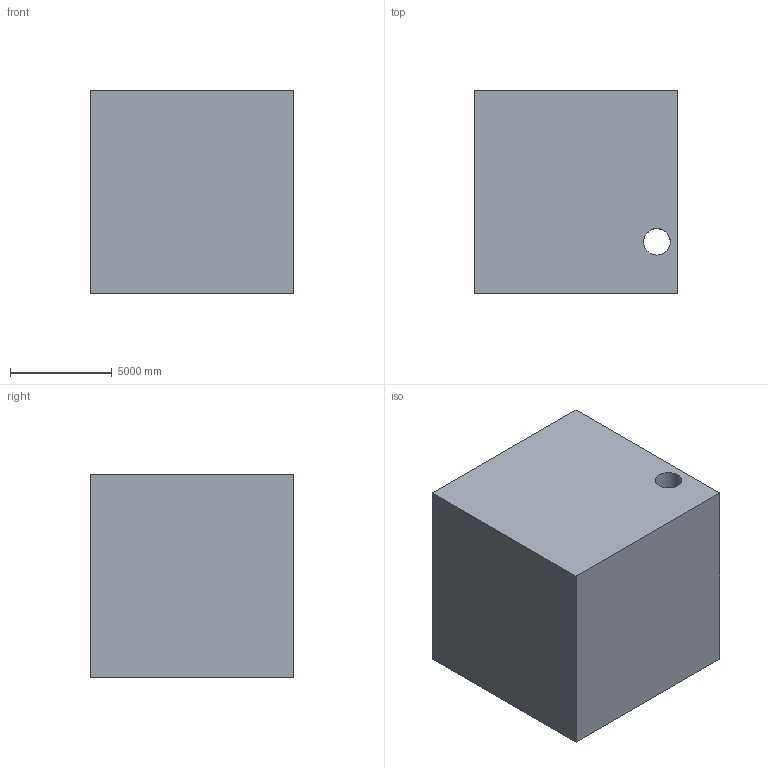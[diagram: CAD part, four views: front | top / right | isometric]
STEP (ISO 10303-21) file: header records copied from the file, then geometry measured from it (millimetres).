
FILE_DESCRIPTION (( 'STEP AP203' ), '1' );
FILE_NAME ('17.STEP', '2022-09-01T11:37:07', ( 'user' ), ( '' ), 'SwSTEP 2.0', 'SolidWorks 2021', '' );
FILE_SCHEMA (( 'CONFIG_CONTROL_DESIGN' ));
Length unit declared in the file: centimetre
Products named in the file (1): 17
Bounding box: 10000 x 10000 x 10000 mm (x, y, z)
Volume: 978612088984.4 mm3; surface area: 646593518.1 mm2
Topology: 1 solids, 1 shells, 16 faces, 42 edges, 28 vertices
Faces by surface type: plane 14, cylinder 2
Entity records: 573 total; most frequent: CARTESIAN_POINT 87, ORIENTED_EDGE 84, DIRECTION 82, EDGE_CURVE 42, VECTOR 36, LINE 36, VERTEX_POINT 28, AXIS2_PLACEMENT_3D 23
